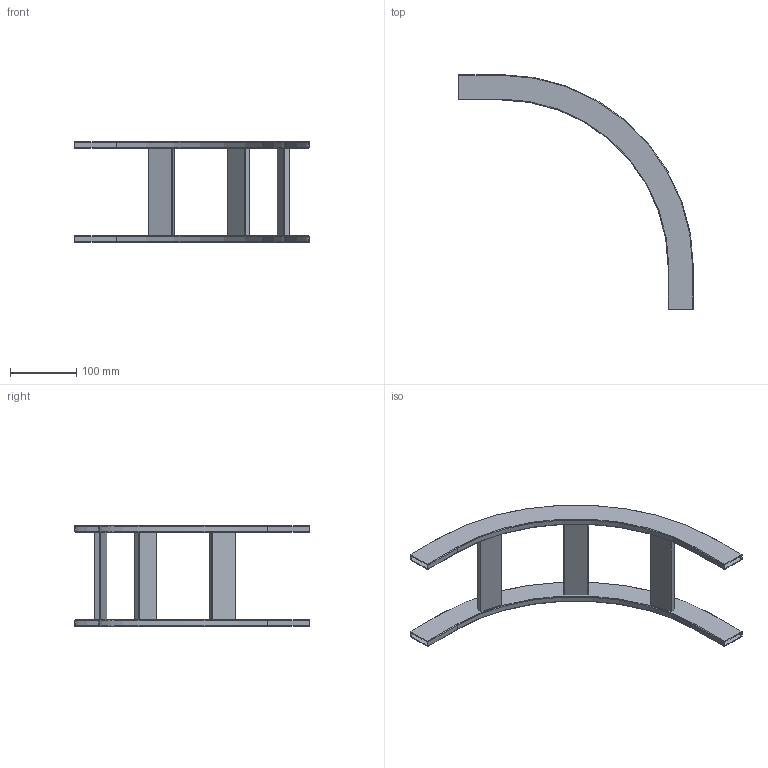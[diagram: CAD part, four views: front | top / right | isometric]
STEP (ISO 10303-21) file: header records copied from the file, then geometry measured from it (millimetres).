
FILE_DESCRIPTION (( 'STEP AP203' ), '1' );
FILE_NAME ('lib6g.STEP', '2008-02-25T21:16:47', ( '' ), ( '' ), 'SwSTEP 2.0', 'SolidWorks 2007', '' );
FILE_SCHEMA (( 'CONFIG_CONTROL_DESIGN' ));
Length unit declared in the file: inch
Products named in the file (1): lib6g
Bounding box: 355.6 x 355.6 x 152.4 mm (x, y, z)
Volume: 285153.3 mm3; surface area: 233734.9 mm2
Topology: 1 solids, 1 shells, 87 faces, 233 edges, 150 vertices
Faces by surface type: plane 40, cylinder 39, torus 8
Entity records: 2820 total; most frequent: DIRECTION 495, CARTESIAN_POINT 471, ORIENTED_EDGE 466, EDGE_CURVE 233, AXIS2_PLACEMENT_3D 174, VERTEX_POINT 150, LINE 147, VECTOR 147
